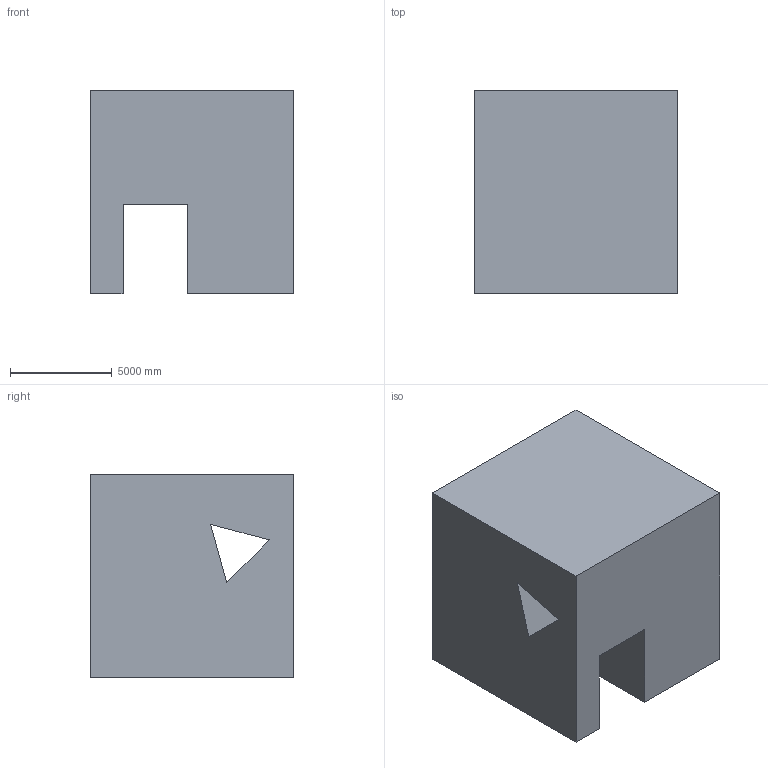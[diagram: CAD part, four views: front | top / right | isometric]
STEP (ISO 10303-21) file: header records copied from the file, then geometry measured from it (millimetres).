
FILE_DESCRIPTION (( 'STEP AP203' ), '1' );
FILE_NAME ('103.STEP', '2022-07-28T13:37:22', ( 'user' ), ( '' ), 'SwSTEP 2.0', 'SolidWorks 2021', '' );
FILE_SCHEMA (( 'CONFIG_CONTROL_DESIGN' ));
Length unit declared in the file: centimetre
Products named in the file (1): 103
Bounding box: 10000 x 10000 x 10000 mm (x, y, z)
Volume: 822297166284 mm3; surface area: 741562895.8 mm2
Topology: 1 solids, 1 shells, 13 faces, 33 edges, 22 vertices
Faces by surface type: plane 13
Entity records: 468 total; most frequent: CARTESIAN_POINT 69, ORIENTED_EDGE 66, DIRECTION 61, LINE 33, VECTOR 33, EDGE_CURVE 33, VERTEX_POINT 22, EDGE_LOOP 15
